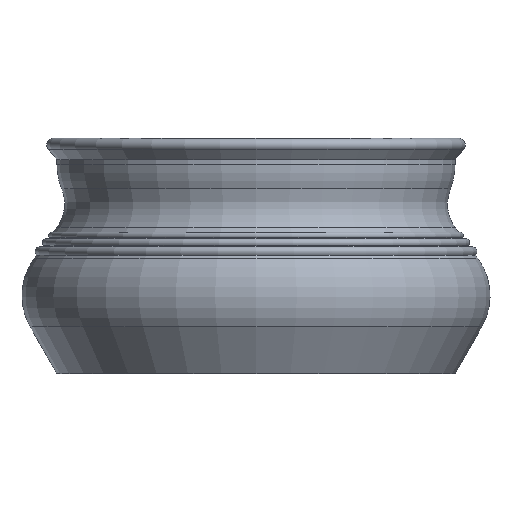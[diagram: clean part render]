
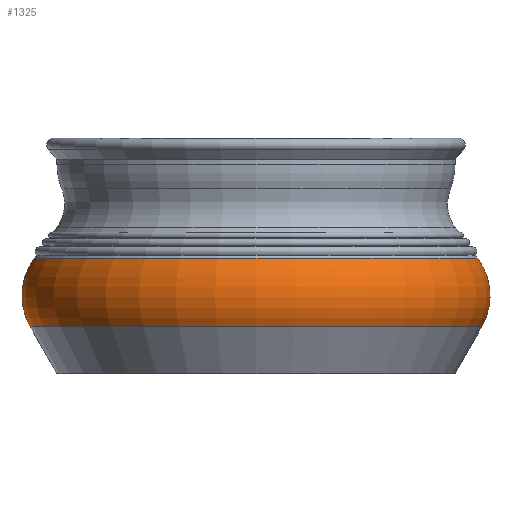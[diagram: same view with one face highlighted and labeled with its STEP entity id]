
A CAD part, front view. The second image highlights one B-rep face of the part: STEP entity #1325.
In plain terms, the highlighted toroidal (fillet/blend) face has major radius 127.136 mm and minor radius 46.864 mm.
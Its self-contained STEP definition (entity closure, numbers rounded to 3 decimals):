
#22=TOROIDAL_SURFACE('',#1505,127.136,46.864);
#166=FACE_OUTER_BOUND('',#284,.T.);
#284=EDGE_LOOP('',(#1208,#1209,#1210,#1211));
#526=CIRCLE('',#1467,167.841);
#549=CIRCLE('',#1506,164.901);
#550=CIRCLE('',#1507,46.864);
#653=VERTEX_POINT('',#2240);
#669=VERTEX_POINT('',#2303);
#818=EDGE_CURVE('',#653,#653,#526,.T.);
#849=EDGE_CURVE('',#669,#669,#549,.T.);
#850=EDGE_CURVE('',#669,#653,#550,.T.);
#1208=ORIENTED_EDGE('',*,*,#849,.F.);
#1209=ORIENTED_EDGE('',*,*,#850,.T.);
#1210=ORIENTED_EDGE('',*,*,#818,.T.);
#1211=ORIENTED_EDGE('',*,*,#850,.F.);
#1325=ADVANCED_FACE('',(#166),#22,.T.);
#1467=AXIS2_PLACEMENT_3D('',#2241,#1837,#1838);
#1505=AXIS2_PLACEMENT_3D('',#2302,#1921,#1922);
#1506=AXIS2_PLACEMENT_3D('',#2304,#1923,#1924);
#1507=AXIS2_PLACEMENT_3D('',#2305,#1925,#1926);
#1837=DIRECTION('center_axis',(0.,0.,1.));
#1838=DIRECTION('ref_axis',(1.,0.,0.));
#1921=DIRECTION('center_axis',(0.,0.,1.));
#1922=DIRECTION('ref_axis',(1.,0.,0.));
#1923=DIRECTION('center_axis',(0.,0.,1.));
#1924=DIRECTION('ref_axis',(1.,0.,0.));
#1925=DIRECTION('center_axis',(0.,-1.,0.));
#1926=DIRECTION('ref_axis',(-1.,0.,0.));
#2240=CARTESIAN_POINT('',(-167.841,0.,34.776));
#2241=CARTESIAN_POINT('Origin',(0.,0.,34.776));
#2302=CARTESIAN_POINT('Origin',(0.,0.,58.));
#2303=CARTESIAN_POINT('',(-164.901,0.,85.75));
#2304=CARTESIAN_POINT('Origin',(0.,0.,85.75));
#2305=CARTESIAN_POINT('Origin',(-127.136,0.,
58.));
